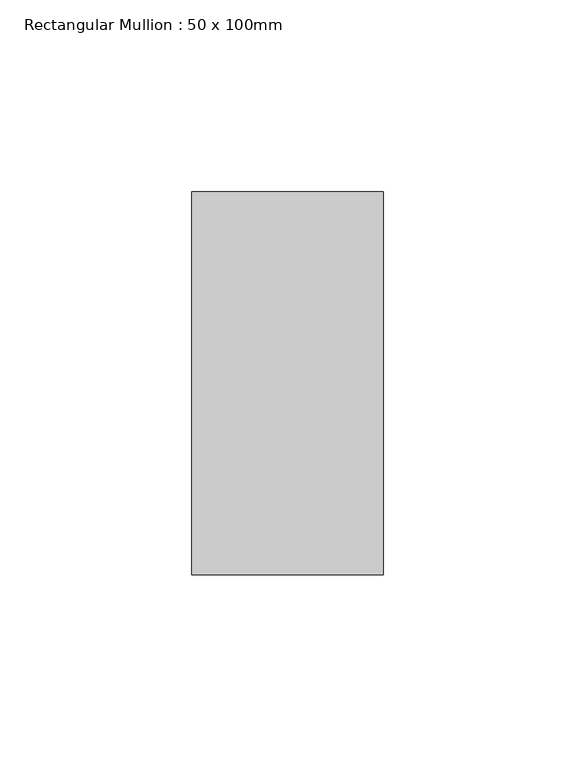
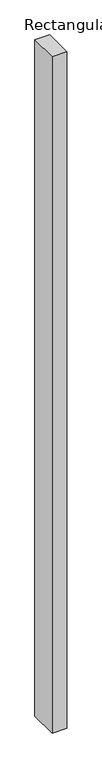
"""IFC4 building model written with IfcOpenShell, lengths in millimetres: member geometry, Rectangular Mullion : 50 x 100mm."""

from ifc_helpers import new_model, si_unit, frame, origin, place, context, project, spatial, polyline, outline, extrude, source, transform, mapped, element, save


def rectangular_mullion_50_x_100mm_d5294c93(model_context):
    return source(origin(), model_context, "Body", "SweptSolid", [
        extrude(outline(polyline([(25.0, 50.0), (25.0, -50.0), (-25.0, -50.0), (-25.0, 50.0), (25.0, 50.0)])), frame((0.0, 0.0, -2400.0), z_axis=(0.0, 0.0, 1.0), x_axis=(1.0, 0.0, 0.0)), (0.0, 0.0, 1.0), 2400.0),
    ])


if __name__ == "__main__":
    model = new_model("IFC4")
    model_context = context("Model", 3, world=origin())
    ifc_project = project(units=[si_unit("LENGTHUNIT", "METRE", prefix="MILLI")], contexts=[model_context])
    site = spatial("IfcSite", under=ifc_project)
    building = spatial("IfcBuilding", under=site)
    placement = place(None, origin())
    rectangular_mullion_50_x_100mm_shape = rectangular_mullion_50_x_100mm_d5294c93(model_context)
    element("IfcMember", 1, ObjectType="Rectangular Mullion : 50 x 100mm", at=placement, inside=building, context=model_context, shape_type="MappedRepresentation", body=[
        mapped(rectangular_mullion_50_x_100mm_shape, transform((0.0, 0.0, 0.0), x_axis=(1.0, 0.0, 0.0), y_axis=(0.0, 1.0, 0.0), z_axis=(0.0, 0.0, 1.0))),
    ])
    save(model, "model.ifc")
